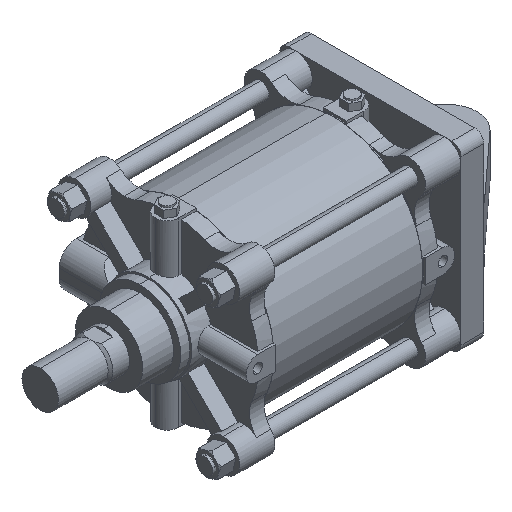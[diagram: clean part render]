
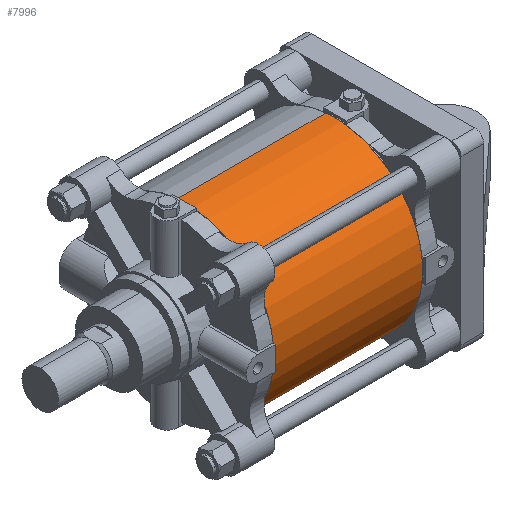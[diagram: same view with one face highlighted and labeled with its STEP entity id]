
A CAD part, isometric view. The second image highlights one B-rep face of the part: STEP entity #7996.
In plain terms, the highlighted cylindrical face has radius 98 mm (diameter 196 mm), a partial arc.
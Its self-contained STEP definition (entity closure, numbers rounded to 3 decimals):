
#15 = FACE_OUTER_BOUND ( 'NONE', #2613, .T. ) ;
#17 = VECTOR ( 'NONE', #9625, 1000. ) ;
#410 = AXIS2_PLACEMENT_3D ( 'NONE', #6633, #807, #5111 ) ;
#582 = VERTEX_POINT ( 'NONE', #8420 ) ;
#807 = DIRECTION ( 'NONE',  ( 1., 0., 0. ) ) ;
#996 = DIRECTION ( 'NONE',  ( -1., 0., 0. ) ) ;
#1610 = DIRECTION ( 'NONE',  ( 0., 0., -1. ) ) ;
#1812 = EDGE_CURVE ( 'NONE', #9456, #6624, #10164, .T. ) ;
#1918 = LINE ( 'NONE', #3417, #7621 ) ;
#2501 = ORIENTED_EDGE ( 'NONE', *, *, #9603, .T. ) ;
#2613 = EDGE_LOOP ( 'NONE', ( #8649, #3374, #5767, #2501 ) ) ;
#3374 = ORIENTED_EDGE ( 'NONE', *, *, #6894, .F. ) ;
#3417 = CARTESIAN_POINT ( 'NONE',  ( 82., 0., -98. ) ) ;
#3789 = CYLINDRICAL_SURFACE ( 'NONE', #6544, 98. ) ;
#3833 = CARTESIAN_POINT ( 'NONE',  ( 82., 0., 0. ) ) ;
#4181 = DIRECTION ( 'NONE',  ( 1., 0., 0. ) ) ;
#5111 = DIRECTION ( 'NONE',  ( 0., 0., -1. ) ) ;
#5234 = CARTESIAN_POINT ( 'NONE',  ( -82., 0., 98. ) ) ;
#5475 = CARTESIAN_POINT ( 'NONE',  ( 82., 0., 98. ) ) ;
#5767 = ORIENTED_EDGE ( 'NONE', *, *, #1812, .T. ) ;
#5792 = EDGE_CURVE ( 'NONE', #9559, #582, #1918, .T. ) ;
#6544 = AXIS2_PLACEMENT_3D ( 'NONE', #10133, #8533, #6672 ) ;
#6617 = AXIS2_PLACEMENT_3D ( 'NONE', #3833, #4181, #1610 ) ;
#6624 = VERTEX_POINT ( 'NONE', #5234 ) ;
#6633 = CARTESIAN_POINT ( 'NONE',  ( -82., 0., 0. ) ) ;
#6672 = DIRECTION ( 'NONE',  ( 0., 0., 1. ) ) ;
#6894 = EDGE_CURVE ( 'NONE', #9456, #9559, #8880, .T. ) ;
#7621 = VECTOR ( 'NONE', #996, 1000. ) ;
#7672 = CIRCLE ( 'NONE', #410, 98. ) ;
#7996 = ADVANCED_FACE ( 'NONE', ( #15 ), #3789, .T. ) ;
#8210 = CARTESIAN_POINT ( 'NONE',  ( 82., 0., 98. ) ) ;
#8420 = CARTESIAN_POINT ( 'NONE',  ( -82., 0., -98. ) ) ;
#8533 = DIRECTION ( 'NONE',  ( -1., 0., 0. ) ) ;
#8649 = ORIENTED_EDGE ( 'NONE', *, *, #5792, .F. ) ;
#8691 = CARTESIAN_POINT ( 'NONE',  ( 82., 0., -98. ) ) ;
#8880 = CIRCLE ( 'NONE', #6617, 98. ) ;
#9456 = VERTEX_POINT ( 'NONE', #5475 ) ;
#9559 = VERTEX_POINT ( 'NONE', #8691 ) ;
#9603 = EDGE_CURVE ( 'NONE', #6624, #582, #7672, .T. ) ;
#9625 = DIRECTION ( 'NONE',  ( -1., 0., 0. ) ) ;
#10133 = CARTESIAN_POINT ( 'NONE',  ( 82., 0., 0. ) ) ;
#10164 = LINE ( 'NONE', #8210, #17 ) ;
